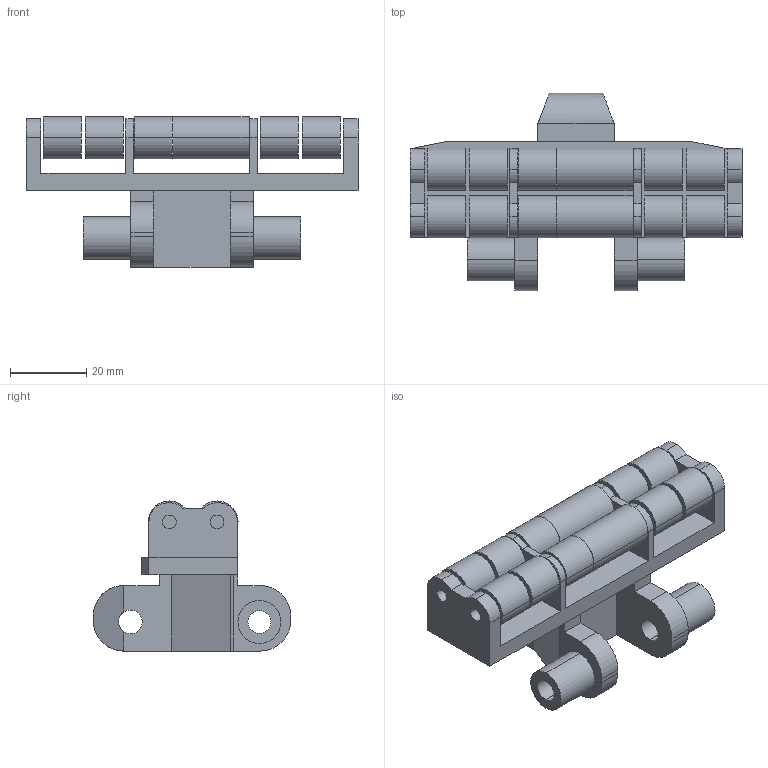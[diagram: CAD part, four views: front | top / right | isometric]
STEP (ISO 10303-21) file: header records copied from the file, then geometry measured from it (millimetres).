
FILE_DESCRIPTION (( 'STEP AP214' ), '1' );
FILE_NAME ('FMRT-5.STEP', '2011-04-14T11:08:45', ( '.' ), ( '' ), 'SwSTEP 2.0', 'SolidWorks 2010', '' );
FILE_SCHEMA (( 'AUTOMOTIVE_DESIGN' ));
Length unit declared in the file: millimetre
Products named in the file (1): FMRT-5
Bounding box: 86.9 x 51.7 x 39.3 mm (x, y, z)
Volume: 42597.4 mm3; surface area: 22128.3 mm2
Topology: 14 solids, 14 shells, 149 faces, 358 edges, 237 vertices
Faces by surface type: cylinder 78, plane 71
Entity records: 4581 total; most frequent: DIRECTION 806, CARTESIAN_POINT 763, ORIENTED_EDGE 716, EDGE_CURVE 358, AXIS2_PLACEMENT_3D 304, VERTEX_POINT 237, LINE 198, VECTOR 198
